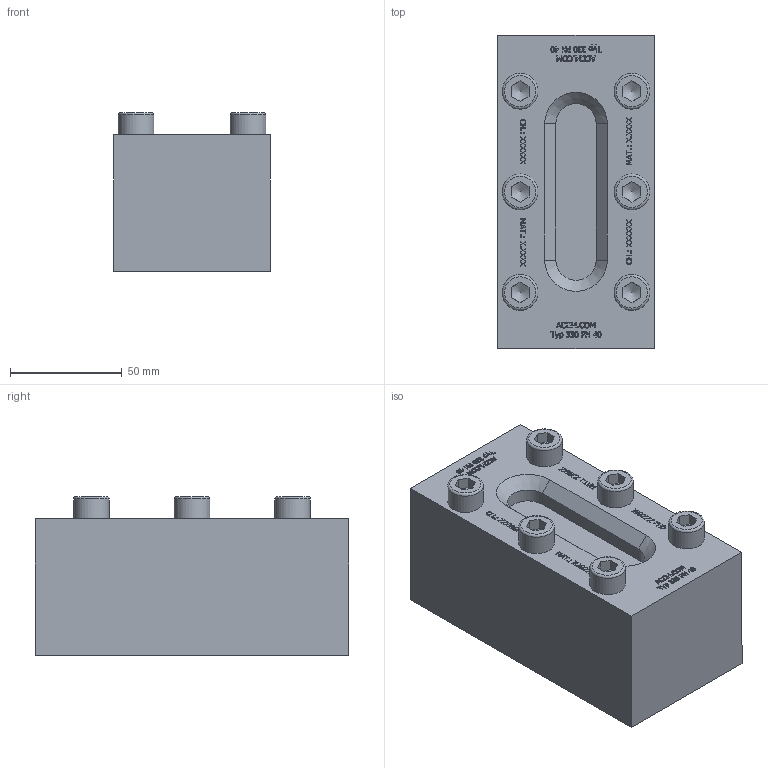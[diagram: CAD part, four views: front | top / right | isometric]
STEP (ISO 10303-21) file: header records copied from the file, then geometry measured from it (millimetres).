
FILE_DESCRIPTION(/* description */ (''),/* implementation_level */ '2;1');
FILE_NAME(/* name */ 'W:\Konstruktion_ACI\330\_Zeichnungen\STEP\ACI-330-140-40.stp.stp',/* time_stamp */ '2022-03-01T17:06:45+01:00',/* author */ ('koslowksi'),/* organization */ (''),/* preprocessor_version */ 'ST-DEVELOPER v16.1',/* originating_system */ 'Autodesk Inventor 2016',/* authorisation */ '');
FILE_SCHEMA (('AUTOMOTIVE_DESIGN { 1 0 10303 214 3 1 1 }'));
Length unit declared in the file: centimetre
Products named in the file (1): ACI-330-140-40.stp
Bounding box: 70 x 140 x 70.9 mm (x, y, z)
Volume: 563367.9 mm3; surface area: 54124.7 mm2
Topology: 1 solids, 1 shells, 1176 faces, 3182 edges, 2118 vertices
Faces by surface type: plane 850, bspline 302, cylinder 10, cone 8, torus 6
Full cylindrical faces by diameter (mm): 16 x6
Entity records: 38964 total; most frequent: CARTESIAN_POINT 10433, ORIENTED_EDGE 6304, DIRECTION 4290, EDGE_CURVE 3152, LINE 2484, VECTOR 2484, VERTEX_POINT 2106, EDGE_LOOP 1304
